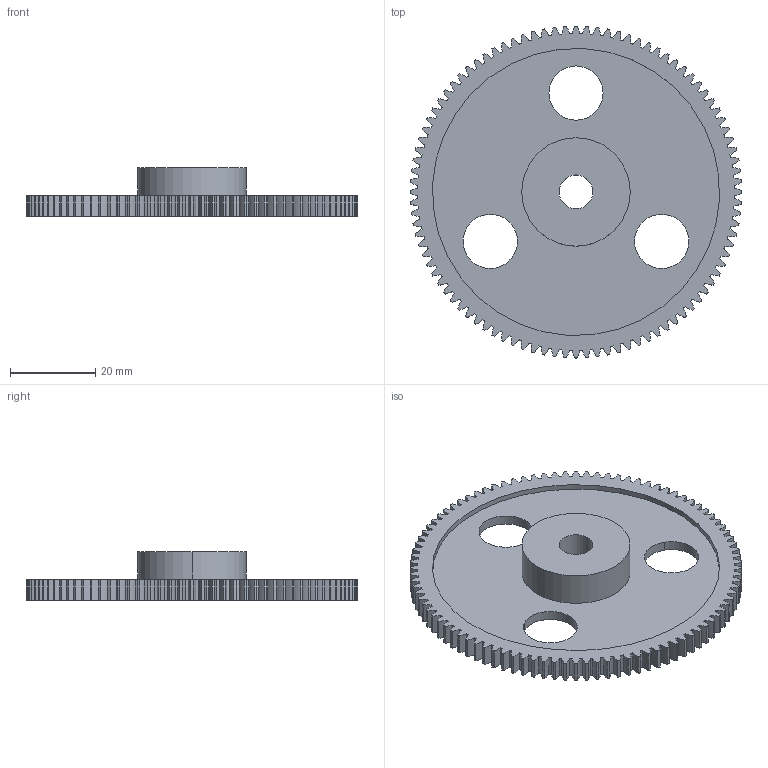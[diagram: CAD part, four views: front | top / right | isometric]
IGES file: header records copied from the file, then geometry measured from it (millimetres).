
Global section: file name: C:\Documents and Settings\Administrator\Desktop\Transfer Temp\gbs-3296.igs; native system: AutoDesk Inventor R2.0 ; preprocessor: AutoDesk Inventor Iges Exporter R2.0; author: No Author specified; organization: No Organization specified; date: 20011226.194637; units: inch
Bounding box: 77.79 x 77.79 x 11.43 mm (x, y, z)
Surface area: 12326.5 mm2 (no closed solid volume)
Topology: 0 solids, 0 shells, 406 faces, 2400 edges, 2400 vertices
Faces by surface type: revolution 392, bspline 14
